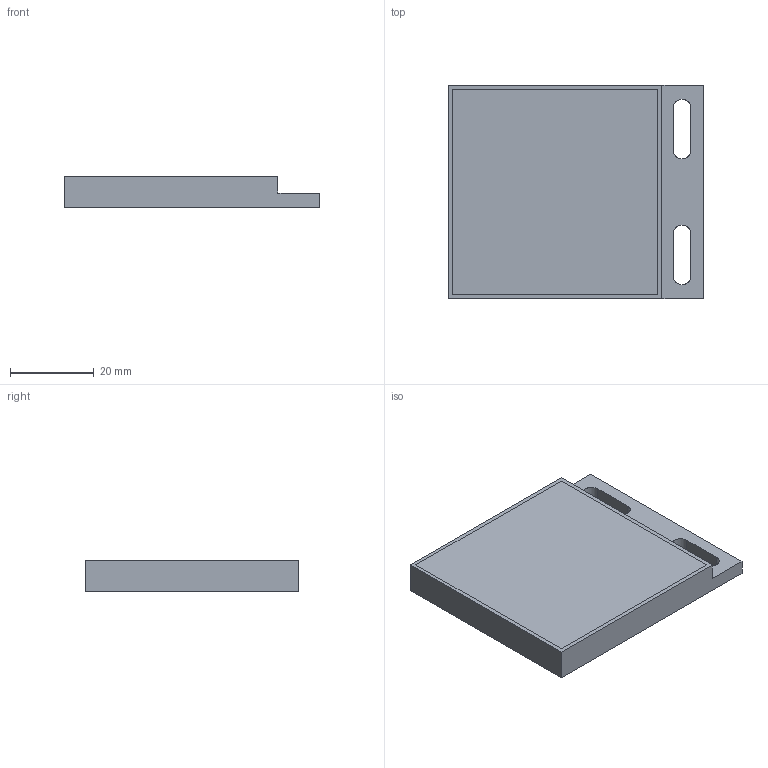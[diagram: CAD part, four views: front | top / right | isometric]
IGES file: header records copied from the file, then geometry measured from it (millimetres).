
Global section: file name: D:\CS\DSD-0545 R4.igs; native system: NX V7.5; preprocessor: SIEMENS PLM Software NX 7.5; date: 20130510.113755; units: millimetre
Bounding box: 61 x 51 x 7.5 mm (x, y, z)
Surface area: 15180.9 mm2 (no closed solid volume)
Topology: 0 solids, 0 shells, 27 faces, 188 edges, 188 vertices
Faces by surface type: bspline 27
